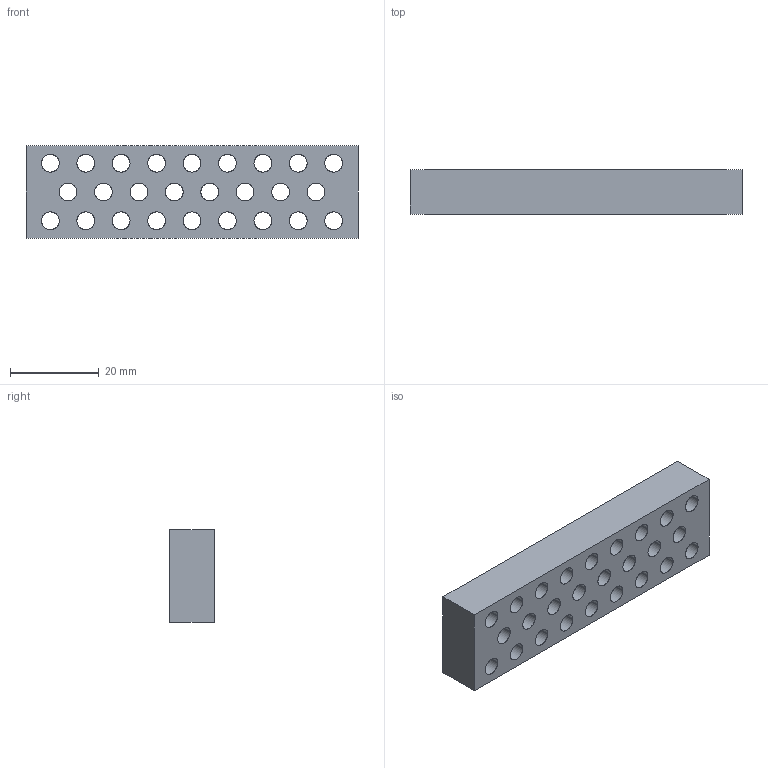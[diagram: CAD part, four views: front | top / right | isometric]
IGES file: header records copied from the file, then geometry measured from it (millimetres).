
Start section: SolidWorks IGES file using analytic representation for surfaces
Global section: file name: E:\eins\20070625石神\シュマルツ\真空グリッパー\183978.IGS,41HSolidWorks; native system: 2006 by SolidWorks Corporation; preprocessor: SolidWorks 2006 by SolidWorks Corporation; author: CAD54; date: 070625.175405; units: millimetre
Bounding box: 75 x 10 x 21 mm (x, y, z)
Surface area: 7683.8 mm2 (no closed solid volume)
Topology: 0 solids, 0 shells, 58 faces, 1896 edges, 1896 vertices
Faces by surface type: revolution 52, bspline 6
